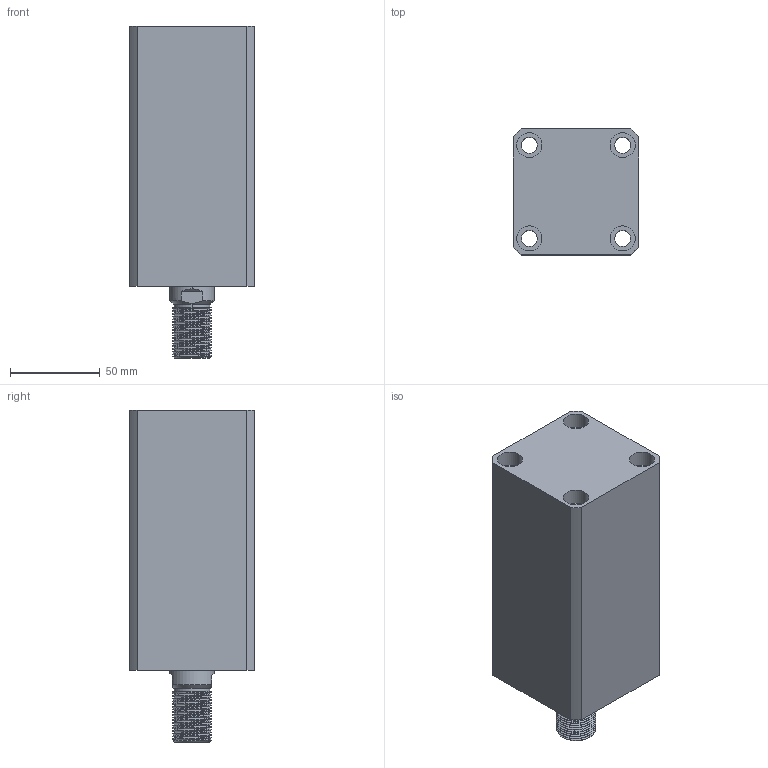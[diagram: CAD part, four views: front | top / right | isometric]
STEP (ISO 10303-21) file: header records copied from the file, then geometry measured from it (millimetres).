
FILE_DESCRIPTION (( 'STEP AP214' ), '1' );
FILE_NAME ('chtb-sd40x90w_asm.STEP', '2018-06-08T05:58:53', ( 'Windows' ), ( 'Microsoft' ), 'SwSTEP 2.0', 'SolidWorks 2015', '' );
FILE_SCHEMA (( 'AUTOMOTIVE_DESIGN' ));
Length unit declared in the file: millimetre
Products named in the file (4): CHTB-SD40QG; CHTB-SD40X90WHSG; CHTB-SD40X90NBT; chtb-sd40x90w_asm
Assembly tree (3 placements, depth 2):
  chtb-sd40x90w_asm
    CHTB-SD40X90NBT
    CHTB-SD40X90WHSG
    CHTB-SD40QG
Bounding box: 70 x 70 x 185 mm (x, y, z)
Volume: 600836.8 mm3; surface area: 115031.2 mm2
Topology: 3 solids, 4 shells, 203 faces, 533 edges, 355 vertices
Faces by surface type: cylinder 118, plane 40, bspline 16, cone 15, torus 14
Entity records: 13425 total; most frequent: CARTESIAN_POINT 8554, ORIENTED_EDGE 1054, DIRECTION 914, EDGE_CURVE 527, AXIS2_PLACEMENT_3D 380, VERTEX_POINT 355, EDGE_LOOP 240, FACE_OUTER_BOUND 203
